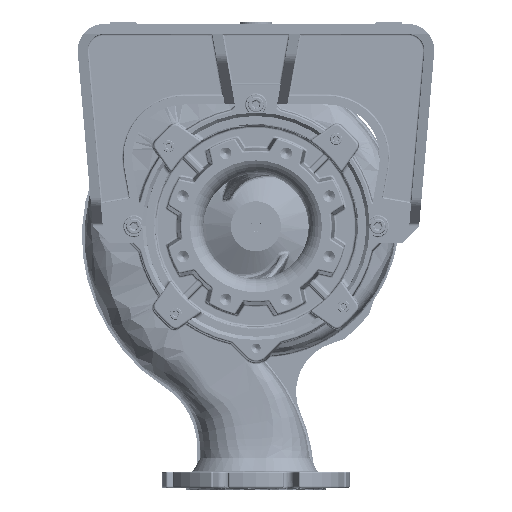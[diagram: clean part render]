
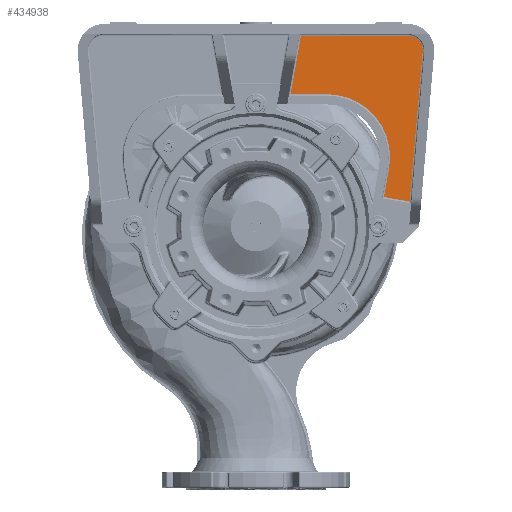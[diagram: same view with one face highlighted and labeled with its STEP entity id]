
A CAD part, front view. The second image highlights one B-rep face of the part: STEP entity #434938.
In plain terms, the highlighted planar face has unit normal (0, -1, 0).
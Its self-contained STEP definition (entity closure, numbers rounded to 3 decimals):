
#14263 = EDGE_CURVE ( 'NONE', #21391, #488525, #461719, .T. ) ;
#20146 = LINE ( 'NONE', #283245, #250794 ) ;
#21391 = VERTEX_POINT ( 'NONE', #75366 ) ;
#39389 = ORIENTED_EDGE ( 'NONE', *, *, #92203, .T. ) ;
#40849 = VECTOR ( 'NONE', #391959, 1000. ) ;
#50351 = DIRECTION ( 'NONE',  ( -1., 0., 0. ) ) ;
#65639 = LINE ( 'NONE', #395207, #322091 ) ;
#74458 = EDGE_CURVE ( 'NONE', #346890, #346280, #20146, .T. ) ;
#75366 = CARTESIAN_POINT ( 'NONE',  ( 194.299, 192., 44.461 ) ) ;
#92203 = EDGE_CURVE ( 'NONE', #295471, #144034, #310150, .T. ) ;
#96811 = EDGE_LOOP ( 'NONE', ( #321742, #270558, #254015, #342803, #39389, #289167, #271272, #222614 ) ) ;
#100674 = CARTESIAN_POINT ( 'NONE',  ( 233.195, 192., 37.603 ) ) ;
#107337 = PLANE ( 'NONE',  #466075 ) ;
#113963 = CARTESIAN_POINT ( 'NONE',  ( 230.5, 192., 267. ) ) ;
#124030 = VERTEX_POINT ( 'NONE', #264083 ) ;
#129161 = DIRECTION ( 'NONE',  ( 0., 1., 0. ) ) ;
#144034 = VERTEX_POINT ( 'NONE', #305864 ) ;
#148554 = DIRECTION ( 'NONE',  ( 0., -1., 0. ) ) ;
#150240 = LINE ( 'NONE', #294514, #246340 ) ;
#151312 = DIRECTION ( 'NONE',  ( 0.086, 0., 0.996 ) ) ;
#183813 = DIRECTION ( 'NONE',  ( -0.174, 0., -0.985 ) ) ;
#188981 = CARTESIAN_POINT ( 'NONE',  ( 252.916, 192., 265.056 ) ) ;
#217613 = CIRCLE ( 'NONE', #368460, 22.5 ) ;
#222614 = ORIENTED_EDGE ( 'NONE', *, *, #14263, .T. ) ;
#242038 = CIRCLE ( 'NONE', #363081, 95.5 ) ;
#246340 = VECTOR ( 'NONE', #339208, 1000. ) ;
#250794 = VECTOR ( 'NONE', #363833, 1000. ) ;
#254015 = ORIENTED_EDGE ( 'NONE', *, *, #74458, .T. ) ;
#264083 = CARTESIAN_POINT ( 'NONE',  ( 252.916, 192., 265.056 ) ) ;
#270558 = ORIENTED_EDGE ( 'NONE', *, *, #354663, .T. ) ;
#271272 = ORIENTED_EDGE ( 'NONE', *, *, #490927, .T. ) ;
#273551 = DIRECTION ( 'NONE',  ( 0., -1., 0. ) ) ;
#283245 = CARTESIAN_POINT ( 'NONE',  ( 230.5, 192., 289.5 ) ) ;
#289167 = ORIENTED_EDGE ( 'NONE', *, *, #481342, .T. ) ;
#289866 = DIRECTION ( 'NONE',  ( 0.985, 0., -0.174 ) ) ;
#293848 = CARTESIAN_POINT ( 'NONE',  ( 202.049, 192., 88.417 ) ) ;
#294514 = CARTESIAN_POINT ( 'NONE',  ( 69.355, 192., 295.414 ) ) ;
#295471 = VERTEX_POINT ( 'NONE', #491511 ) ;
#301889 = CARTESIAN_POINT ( 'NONE',  ( 230.5, 192., 289.5 ) ) ;
#305864 = CARTESIAN_POINT ( 'NONE',  ( 108., 192., 200.5 ) ) ;
#310150 = LINE ( 'NONE', #345425, #40849 ) ;
#310480 = EDGE_CURVE ( 'NONE', #346280, #295471, #150240, .T. ) ;
#314681 = DIRECTION ( 'NONE',  ( -1., 0., 0. ) ) ;
#321742 = ORIENTED_EDGE ( 'NONE', *, *, #454396, .T. ) ;
#322091 = VECTOR ( 'NONE', #183813, 1000. ) ;
#324169 = VERTEX_POINT ( 'NONE', #293848 ) ;
#335796 = FACE_OUTER_BOUND ( 'NONE', #96811, .T. ) ;
#339200 = VECTOR ( 'NONE', #289866, 1000. ) ;
#339208 = DIRECTION ( 'NONE',  ( -0.174, 0., -0.985 ) ) ;
#342803 = ORIENTED_EDGE ( 'NONE', *, *, #310480, .T. ) ;
#345425 = CARTESIAN_POINT ( 'NONE',  ( 230.5, 192., 200.5 ) ) ;
#346280 = VERTEX_POINT ( 'NONE', #422590 ) ;
#346890 = VERTEX_POINT ( 'NONE', #301889 ) ;
#354663 = EDGE_CURVE ( 'NONE', #124030, #346890, #217613, .T. ) ;
#363081 = AXIS2_PLACEMENT_3D ( 'NONE', #460590, #129161, #50351 ) ;
#363833 = DIRECTION ( 'NONE',  ( -1., 0., 0. ) ) ;
#368460 = AXIS2_PLACEMENT_3D ( 'NONE', #113963, #273551, #314681 ) ;
#391959 = DIRECTION ( 'NONE',  ( 1., 0., 0. ) ) ;
#392208 = DIRECTION ( 'NONE',  ( -1., 0., 0. ) ) ;
#395207 = CARTESIAN_POINT ( 'NONE',  ( 233.447, 192., 266.48 ) ) ;
#422590 = CARTESIAN_POINT ( 'NONE',  ( 68.312, 192., 289.5 ) ) ;
#434938 = ADVANCED_FACE ( 'NONE', ( #335796 ), #107337, .T. ) ;
#436969 = CARTESIAN_POINT ( 'NONE',  ( 230.5, 192., 267. ) ) ;
#452934 = CARTESIAN_POINT ( 'NONE',  ( 191.352, 192., 44.981 ) ) ;
#454396 = EDGE_CURVE ( 'NONE', #488525, #124030, #469622, .T. ) ;
#460590 = CARTESIAN_POINT ( 'NONE',  ( 108., 192., 105. ) ) ;
#461719 = LINE ( 'NONE', #452934, #339200 ) ;
#466075 = AXIS2_PLACEMENT_3D ( 'NONE', #436969, #148554, #392208 ) ;
#469622 = LINE ( 'NONE', #188981, #488708 ) ;
#481342 = EDGE_CURVE ( 'NONE', #144034, #324169, #242038, .T. ) ;
#488525 = VERTEX_POINT ( 'NONE', #100674 ) ;
#488708 = VECTOR ( 'NONE', #151312, 1000. ) ;
#490927 = EDGE_CURVE ( 'NONE', #324169, #21391, #65639, .T. ) ;
#491511 = CARTESIAN_POINT ( 'NONE',  ( 52.619, 192., 200.5 ) ) ;
